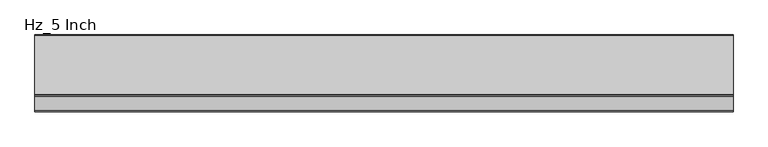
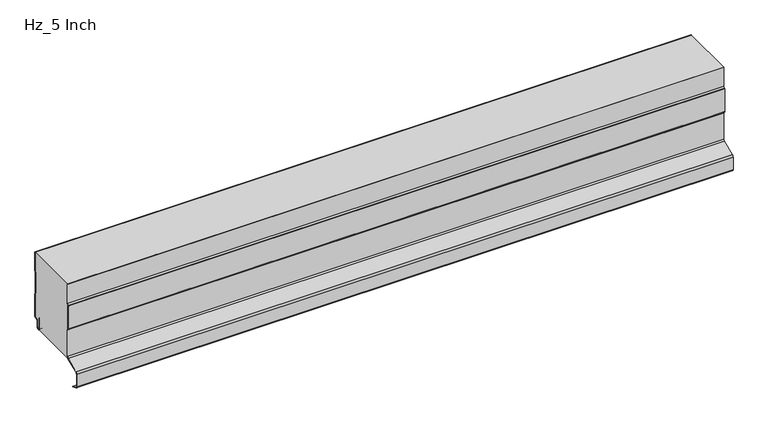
"""IFC4 building model written with IfcOpenShell, lengths in millimetres: plate geometry, AWIP_R18_CP_HR5_Hz_Roof Panel : Hz_5 Inch."""

from ifc_helpers import new_model, si_unit, point, frame, frame_2d, origin, place, context, project, spatial, polyline, circle_curve, trimmed, segment, composite_curve, outline, extrude, source, transform, mapped, element, save


def hz_5_inch_f48fc165(model_context):
    return source(origin(), model_context, "Body", "SweptSolid", [
        extrude(outline(composite_curve([segment(polyline([(-0.8, 161.5426774), (-0.8, 203.2), (0.0, 203.2), (0.0, 161.5426774)]), True, "CONTINUOUS"), segment(trimmed(circle_curve(frame_2d((-3.2, 161.5426774)), 3.2), [point((0.0, 161.5426774))], [point((-0.2624164, 160.2735823))], False, "CARTESIAN"), True, "CONTINUOUS"), segment(polyline([(-0.2624164, 160.2735823), (-1.2949872, 157.8834831)]), True, "CONTINUOUS"), segment(trimmed(circle_curve(frame_2d((1.0, 156.8920026)), 2.5), [point((-1.2949872, 157.8834831))], [point((-1.5, 156.8920026))], True, "CARTESIAN"), True, "CONTINUOUS"), segment(polyline([(-1.5, 156.8920026), (-1.5, 108.5079974)]), True, "CONTINUOUS"), segment(trimmed(circle_curve(frame_2d((1.0, 108.5079974)), 2.5), [point((-1.5, 108.5079974))], [point((-1.2949872, 107.5165169))], True, "CARTESIAN"), True, "CONTINUOUS"), segment(polyline([(-1.2949872, 107.5165169), (-0.2624164, 105.1264177)]), True, "CONTINUOUS"), segment(trimmed(circle_curve(frame_2d((-3.2, 103.8573226)), 3.2), [point((-0.2624164, 105.1264177))], [point((0.0, 103.8573226))], False, "CARTESIAN"), True, "CONTINUOUS"), segment(polyline([(0.0, 103.8573226), (0.0, 54.1)]), True, "CONTINUOUS"), segment(trimmed(circle_curve(frame_2d((-3.0, 54.1)), 3.0), [point((0.0, 54.1))], [point((-3.0, 51.1))], False, "CARTESIAN"), True, "CONTINUOUS"), segment(polyline([(-3.0, 51.1), (-5.0, 51.1)]), True, "CONTINUOUS"), segment(trimmed(circle_curve(frame_2d((-5.0, 47.1)), 4.0), [point((-5.0, 51.1))], [point((-9.0, 47.1))], True, "CARTESIAN"), True, "CONTINUOUS"), segment(polyline([(-9.0, 47.1), (-9.0, 33.5841899)]), True, "CONTINUOUS"), segment(trimmed(circle_curve(frame_2d((-12.0, 33.5841899)), 3.0), [point((-9.0, 33.5841899))], [point((-12.0, 30.5841899))], False, "CARTESIAN"), True, "CONTINUOUS"), segment(polyline([(-12.0, 30.5841899), (-14.0, 30.5841899)]), True, "CONTINUOUS"), segment(trimmed(circle_curve(frame_2d((-14.0, 33.5841899)), 3.0), [point((-14.0, 30.5841899))], [point((-17.0, 33.5841899))], False, "CARTESIAN"), True, "CONTINUOUS"), segment(polyline([(-17.0, 33.5841899), (-17.0, 59.5252318), (-16.2, 59.5252318), (-16.2, 33.5841899)]), True, "CONTINUOUS"), segment(trimmed(circle_curve(frame_2d((-14.0, 33.5841899)), 2.2), [point((-16.2, 33.5841899))], [point((-14.0, 31.3841899))], True, "CARTESIAN"), True, "CONTINUOUS"), segment(polyline([(-14.0, 31.3841899), (-12.0, 31.3841899)]), True, "CONTINUOUS"), segment(trimmed(circle_curve(frame_2d((-12.0, 33.5841899)), 2.2), [point((-12.0, 31.3841899))], [point((-9.8, 33.5841899))], True, "CARTESIAN"), True, "CONTINUOUS"), segment(polyline([(-9.8, 33.5841899), (-9.8, 47.1)]), True, "CONTINUOUS"), segment(trimmed(circle_curve(frame_2d((-5.0, 47.1)), 4.8), [point((-9.8, 47.1))], [point((-5.0, 51.9))], False, "CARTESIAN"), True, "CONTINUOUS"), segment(polyline([(-5.0, 51.9), (-3.0, 51.9)]), True, "CONTINUOUS"), segment(trimmed(circle_curve(frame_2d((-3.0, 54.1)), 2.2), [point((-3.0, 51.9))], [point((-0.8, 54.1))], True, "CARTESIAN"), True, "CONTINUOUS"), segment(polyline([(-0.8, 54.1), (-0.8, 103.8573226)]), True, "CONTINUOUS"), segment(trimmed(circle_curve(frame_2d((-3.2, 103.8573226)), 2.4), [point((-0.8, 103.8573226))], [point((-0.9968123, 104.8091439))], True, "CARTESIAN"), True, "CONTINUOUS"), segment(polyline([(-0.9968123, 104.8091439), (-2.0293831, 107.1992431)]), True, "CONTINUOUS"), segment(trimmed(circle_curve(frame_2d((1.0, 108.5079974)), 3.3), [point((-2.0293831, 107.1992431))], [point((-2.3, 108.5079974))], False, "CARTESIAN"), True, "CONTINUOUS"), segment(polyline([(-2.3, 108.5079974), (-2.3, 156.8920026)]), True, "CONTINUOUS"), segment(trimmed(circle_curve(frame_2d((1.0, 156.8920026)), 3.3), [point((-2.3, 156.8920026))], [point((-2.0293831, 158.2007569))], False, "CARTESIAN"), True, "CONTINUOUS"), segment(polyline([(-2.0293831, 158.2007569), (-0.9968123, 160.5908561)]), True, "CONTINUOUS"), segment(trimmed(circle_curve(frame_2d((-3.2, 161.5426774)), 2.4), [point((-0.9968123, 160.5908561))], [point((-0.8, 161.5426774))], True, "CARTESIAN"), True, "CONTINUOUS")], self_intersect=False)), frame((-723.9042608, 0.0, 0.0), z_axis=(1.0, 0.0, 0.0), x_axis=(0.0, 1.0, 0.0)), (0.0, 0.0, 1.0), 1447.8085217),
        extrude(outline(composite_curve([segment(polyline([(-123.4158805, 158.7499765), (-123.4158805, 203.2), (-0.8, 203.2), (-0.8, 161.5257309)]), True, "CONTINUOUS"), segment(trimmed(circle_curve(frame_2d((-3.2, 161.5257309)), 2.4), [point((-0.8, 161.5257309))], [point((-0.9968123, 160.5739095))], False, "CARTESIAN"), True, "CONTINUOUS"), segment(polyline([(-0.9968123, 160.5739095), (-2.0293831, 158.1838103)]), True, "CONTINUOUS"), segment(trimmed(circle_curve(frame_2d((1.0, 156.875056)), 3.3), [point((-2.0293831, 158.1838103))], [point((-2.3, 156.875056))], True, "CARTESIAN"), True, "CONTINUOUS"), segment(polyline([(-2.3, 156.875056), (-2.3, 108.4910509)]), True, "CONTINUOUS"), segment(trimmed(circle_curve(frame_2d((1.0, 108.4910509)), 3.3), [point((-2.3, 108.4910509))], [point((-2.0293831, 107.1822965))], True, "CARTESIAN"), True, "CONTINUOUS"), segment(polyline([(-2.0293831, 107.1822965), (-0.9968123, 104.7921973)]), True, "CONTINUOUS"), segment(trimmed(circle_curve(frame_2d((-3.2, 103.840376)), 2.4), [point((-0.9968123, 104.7921973))], [point((-0.8, 103.840376))], False, "CARTESIAN"), True, "CONTINUOUS"), segment(polyline([(-0.8, 103.840376), (-0.8, 54.0830534)]), True, "CONTINUOUS"), segment(trimmed(circle_curve(frame_2d((-3.0, 54.0830534)), 2.2), [point((-0.8, 54.0830534))], [point((-3.0, 51.8830534))], False, "CARTESIAN"), True, "CONTINUOUS"), segment(polyline([(-3.0, 51.8830534), (-5.0, 51.8830534)]), True, "CONTINUOUS"), segment(trimmed(circle_curve(frame_2d((-5.0, 47.0830534)), 4.8), [point((-5.0, 51.8830534))], [point((-9.8, 47.0830534))], True, "CARTESIAN"), True, "CONTINUOUS"), segment(polyline([(-9.8, 47.0830534), (-9.8, 33.5672433)]), True, "CONTINUOUS"), segment(trimmed(circle_curve(frame_2d((-12.0, 33.5672433)), 2.2), [point((-9.8, 33.5672433))], [point((-12.0, 31.3672433))], False, "CARTESIAN"), True, "CONTINUOUS"), segment(polyline([(-12.0, 31.3672433), (-14.0, 31.3672433)]), True, "CONTINUOUS"), segment(trimmed(circle_curve(frame_2d((-14.0, 33.5672433)), 2.2), [point((-14.0, 31.3672433))], [point((-16.2, 33.5672433))], False, "CARTESIAN"), True, "CONTINUOUS"), segment(polyline([(-16.2, 33.5672433), (-16.2, 59.5082852), (-17.0, 59.5082852), (-17.0, 33.5672433)]), True, "CONTINUOUS"), segment(trimmed(circle_curve(frame_2d((-14.0, 33.5672433)), 3.0), [point((-17.0, 33.5672433))], [point((-14.0, 30.5672433))], True, "CARTESIAN"), True, "CONTINUOUS"), segment(polyline([(-14.0, 30.5672433), (-127.020955, 30.5672433)]), True, "CONTINUOUS"), segment(trimmed(circle_curve(frame_2d((-128.2158805, 35.2161306)), 4.8), [point((-127.020955, 30.5672433))], [point((-123.4158805, 35.2161306))], True, "CARTESIAN"), True, "CONTINUOUS"), segment(polyline([(-123.4158805, 35.2161306), (-123.4158805, 96.0000475)]), True, "CONTINUOUS"), segment(trimmed(circle_curve(frame_2d((-124.7158805, 96.0000475)), 1.3), [point((-123.4158805, 96.0000475))], [point((-123.6621796, 96.7614373))], True, "CARTESIAN"), True, "CONTINUOUS"), segment(polyline([(-123.6621796, 96.7614373), (-126.2, 100.2735719), (-126.2, 154.4764522), (-123.6621797, 157.9885867)]), True, "CONTINUOUS"), segment(trimmed(circle_curve(frame_2d((-124.7158805, 158.7499765)), 1.3), [point((-123.6621797, 157.9885867))], [point((-123.4158805, 158.7499765))], True, "CARTESIAN"), True, "CONTINUOUS")], self_intersect=False)), frame((-723.9042608, 0.0, 0.0), z_axis=(1.0, 0.0, 0.0), x_axis=(0.0, 1.0, 0.0)), (0.0, 0.0, 1.0), 1447.8085217),
        extrude(outline(composite_curve([segment(polyline([(-124.2158805, 158.5882334), (-124.2158805, 203.2), (-123.4158805, 203.2), (-123.4158805, 158.7499765)]), True, "CONTINUOUS"), segment(trimmed(circle_curve(frame_2d((-124.7158805, 158.7499765)), 1.3), [point((-123.4158805, 158.7499765))], [point((-123.6621796, 157.9885867))], False, "CARTESIAN"), True, "CONTINUOUS"), segment(polyline([(-123.6621796, 157.9885867), (-126.1999999, 154.4764522), (-126.1999999, 100.2735719), (-123.6621795, 96.7614373)]), True, "CONTINUOUS"), segment(trimmed(circle_curve(frame_2d((-124.7158804, 96.0000475)), 1.3), [point((-123.6621795, 96.7614373))], [point((-123.4158804, 96.0000475))], False, "CARTESIAN"), True, "CONTINUOUS"), segment(polyline([(-123.4158804, 96.0000475), (-123.4158804, 35.2161306)]), True, "CONTINUOUS"), segment(trimmed(circle_curve(frame_2d((-128.2158804, 35.2161306)), 4.8), [point((-123.4158804, 35.2161306))], [point((-126.3404013, 30.7976944))], False, "CARTESIAN"), True, "CONTINUOUS"), segment(polyline([(-126.3404013, 30.7976944), (-156.3569246, 18.0566792)]), True, "CONTINUOUS"), segment(trimmed(circle_curve(frame_2d((-154.7158804, 14.1905475)), 4.2), [point((-156.3569246, 18.0566792))], [point((-158.9158804, 14.1905475))], True, "CARTESIAN"), True, "CONTINUOUS"), segment(polyline([(-158.9158804, 14.1905475), (-158.9158804, -14.1905446)]), True, "CONTINUOUS"), segment(trimmed(circle_curve(frame_2d((-154.7158804, -14.1905446)), 4.2), [point((-158.9158804, -14.1905446))], [point((-156.3569214, -18.0566776))], True, "CARTESIAN"), True, "CONTINUOUS"), segment(polyline([(-156.3569214, -18.0566776), (-143.7561658, -23.4052667), (-144.0672483, -24.1423084), (-156.6695007, -18.7930838)]), True, "CONTINUOUS"), segment(trimmed(circle_curve(frame_2d((-154.7158804, -14.1905446)), 5.0), [point((-156.6695007, -18.7930838))], [point((-159.7158804, -14.1905446))], False, "CARTESIAN"), True, "CONTINUOUS"), segment(polyline([(-159.7158804, -14.1905446), (-159.7158804, 14.1905475)]), True, "CONTINUOUS"), segment(trimmed(circle_curve(frame_2d((-154.7158804, 14.1905475)), 5.0), [point((-159.7158804, 14.1905475))], [point((-156.6695045, 18.7930852))], False, "CARTESIAN"), True, "CONTINUOUS"), segment(polyline([(-156.6695045, 18.7930852), (-126.6529811, 31.5341005)]), True, "CONTINUOUS"), segment(trimmed(circle_curve(frame_2d((-128.2158804, 35.2161306)), 4.0), [point((-126.6529811, 31.5341005))], [point((-124.2158804, 35.2161306))], True, "CARTESIAN"), True, "CONTINUOUS"), segment(polyline([(-124.2158804, 35.2161306), (-124.2158804, 96.1617908), (-126.7158083, 99.6214851)]), True, "CONTINUOUS"), segment(trimmed(circle_curve(frame_2d((-125.4999996, 100.5000119)), 1.5), [point((-126.7158083, 99.6214851))], [point((-126.9999996, 100.5000119))], False, "CARTESIAN"), True, "CONTINUOUS"), segment(polyline([(-126.9999996, 100.5000119), (-126.9999996, 154.2490404)]), True, "CONTINUOUS"), segment(trimmed(circle_curve(frame_2d((-125.4999999, 154.2500118)), 1.5), [point((-126.9999996, 154.2490404))], [point((-126.7158086, 155.1285386))], False, "CARTESIAN"), True, "CONTINUOUS"), segment(polyline([(-126.7158086, 155.1285386), (-124.2158805, 158.5882334)]), True, "CONTINUOUS")], self_intersect=False)), frame((-723.9042608, 0.0, 0.0), z_axis=(1.0, 0.0, 0.0), x_axis=(0.0, 1.0, 0.0)), (0.0, 0.0, 1.0), 1447.8085217),
    ])


if __name__ == "__main__":
    model = new_model("IFC4")
    model_context = context("Model", 3, world=origin())
    ifc_project = project(units=[si_unit("LENGTHUNIT", "METRE", prefix="MILLI")], contexts=[model_context])
    site = spatial("IfcSite", under=ifc_project)
    building = spatial("IfcBuilding", under=site)
    placement = place(None, origin())
    hz_5_inch_shape = hz_5_inch_f48fc165(model_context)
    element("IfcPlate", 1, ObjectType="AWIP_R18_CP_HR5_Hz_Roof Panel : Hz_5 Inch", at=placement, inside=building, context=model_context, shape_type="MappedRepresentation", body=[
        mapped(hz_5_inch_shape, transform((0.0, 0.0, 0.0), x_axis=(1.0, 0.0, 0.0), y_axis=(0.0, 1.0, 0.0), z_axis=(0.0, 0.0, 1.0))),
    ])
    save(model, "model.ifc")
